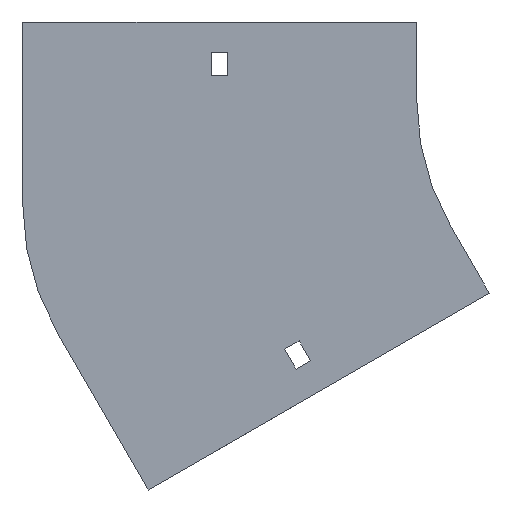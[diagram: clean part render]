
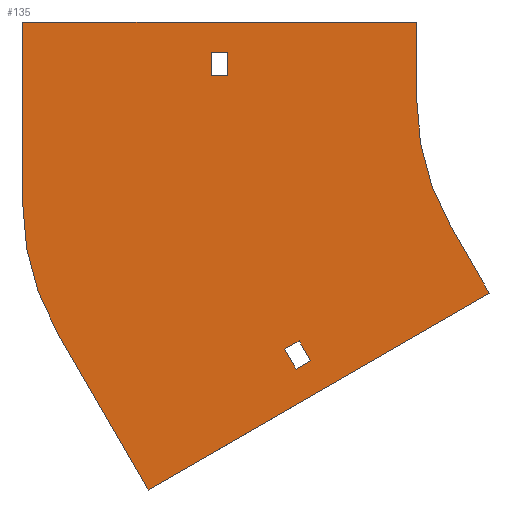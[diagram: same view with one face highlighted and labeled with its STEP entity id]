
A CAD part, front view. The second image highlights one B-rep face of the part: STEP entity #135.
In plain terms, the highlighted planar face has unit normal (0, -1, 0).
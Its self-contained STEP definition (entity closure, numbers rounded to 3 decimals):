
#14 = CARTESIAN_POINT ( 'NONE',  ( 0., 0., 0. ) ) ;
#15 = CARTESIAN_POINT ( 'NONE',  ( -147.101, 0., -105.713 ) ) ;
#16 = CARTESIAN_POINT ( 'NONE',  ( -180.25, 0., 9. ) ) ;
#29 = FACE_BOUND ( 'NONE', #1389, .T. ) ;
#39 = CIRCLE ( 'NONE', #934, 100. ) ;
#42 = VERTEX_POINT ( 'NONE', #532 ) ;
#46 = LINE ( 'NONE', #176, #450 ) ;
#55 = CARTESIAN_POINT ( 'NONE',  ( -100., 0., 0. ) ) ;
#56 = VERTEX_POINT ( 'NONE', #441 ) ;
#62 = EDGE_CURVE ( 'NONE', #1405, #285, #1062, .T. ) ;
#79 = LINE ( 'NONE', #607, #559 ) ;
#82 = DIRECTION ( 'NONE',  ( 0., 0., -1. ) ) ;
#93 = EDGE_CURVE ( 'NONE', #678, #1405, #951, .T. ) ;
#100 = ORIENTED_EDGE ( 'NONE', *, *, #377, .F. ) ;
#112 = EDGE_CURVE ( 'NONE', #273, #1020, #424, .T. ) ;
#121 = CARTESIAN_POINT ( 'NONE',  ( -254., 0., -41.264 ) ) ;
#135 = ADVANCED_FACE ( 'NONE', ( #29, #1320, #561 ), #258, .T. ) ;
#148 = ORIENTED_EDGE ( 'NONE', *, *, #316, .T. ) ;
#154 = EDGE_CURVE ( 'NONE', #861, #161, #654, .T. ) ;
#161 = VERTEX_POINT ( 'NONE', #1094 ) ;
#176 = CARTESIAN_POINT ( 'NONE',  ( -180.25, 0., 9. ) ) ;
#177 = VECTOR ( 'NONE', #734, 1000. ) ;
#190 = CARTESIAN_POINT ( 'NONE',  ( -254., 0., 30. ) ) ;
#214 = VERTEX_POINT ( 'NONE', #1305 ) ;
#218 = VERTEX_POINT ( 'NONE', #988 ) ;
#219 = CARTESIAN_POINT ( 'NONE',  ( -154., 0., -41.264 ) ) ;
#220 = ORIENTED_EDGE ( 'NONE', *, *, #449, .F. ) ;
#232 = DIRECTION ( 'NONE',  ( 0.866, 0., 0.5 ) ) ;
#242 = DIRECTION ( 'NONE',  ( 0., -1., 0. ) ) ;
#258 = PLANE ( 'NONE',  #1125 ) ;
#273 = VERTEX_POINT ( 'NONE', #792 ) ;
#285 = VERTEX_POINT ( 'NONE', #581 ) ;
#295 = DIRECTION ( 'NONE',  ( -0.5, 0., 0.866 ) ) ;
#313 = ORIENTED_EDGE ( 'NONE', *, *, #456, .F. ) ;
#315 = LINE ( 'NONE', #506, #340 ) ;
#316 = EDGE_CURVE ( 'NONE', #42, #214, #46, .T. ) ;
#340 = VECTOR ( 'NONE', #742, 1000. ) ;
#377 = EDGE_CURVE ( 'NONE', #1068, #443, #502, .T. ) ;
#399 = DIRECTION ( 'NONE',  ( 0.5, 0., -0.866 ) ) ;
#415 = DIRECTION ( 'NONE',  ( -0.866, 0., -0.5 ) ) ;
#424 = LINE ( 'NONE', #630, #1139 ) ;
#441 = CARTESIAN_POINT ( 'NONE',  ( -173.75, 0., 18. ) ) ;
#442 = LINE ( 'NONE', #15, #756 ) ;
#443 = VERTEX_POINT ( 'NONE', #1268 ) ;
#449 = EDGE_CURVE ( 'NONE', #285, #218, #516, .T. ) ;
#450 = VECTOR ( 'NONE', #1128, 1000. ) ;
#456 = EDGE_CURVE ( 'NONE', #1152, #1068, #39, .T. ) ;
#458 = ORIENTED_EDGE ( 'NONE', *, *, #811, .T. ) ;
#469 = VECTOR ( 'NONE', #399, 1000. ) ;
#486 = ORIENTED_EDGE ( 'NONE', *, *, #945, .F. ) ;
#488 = CARTESIAN_POINT ( 'NONE',  ( -141.472, 0., -102.463 ) ) ;
#499 = EDGE_LOOP ( 'NONE', ( #1025, #818, #486, #1073, #730, #100, #313, #1142 ) ) ;
#502 = LINE ( 'NONE', #1292, #469 ) ;
#506 = CARTESIAN_POINT ( 'NONE',  ( -180.25, 0., 18. ) ) ;
#516 = LINE ( 'NONE', #1406, #177 ) ;
#525 = CARTESIAN_POINT ( 'NONE',  ( -151.601, 0., -97.919 ) ) ;
#531 = DIRECTION ( 'NONE',  ( 0., -1., 0. ) ) ;
#532 = CARTESIAN_POINT ( 'NONE',  ( -180.25, 0., 9. ) ) ;
#546 = DIRECTION ( 'NONE',  ( -1., 0., 0. ) ) ;
#556 = VECTOR ( 'NONE', #766, 1000. ) ;
#559 = VECTOR ( 'NONE', #837, 1000. ) ;
#561 = FACE_BOUND ( 'NONE', #1285, .T. ) ;
#581 = CARTESIAN_POINT ( 'NONE',  ( -151.601, 0., -97.919 ) ) ;
#592 = VERTEX_POINT ( 'NONE', #864 ) ;
#606 = DIRECTION ( 'NONE',  ( 1., 0., 0. ) ) ;
#607 = CARTESIAN_POINT ( 'NONE',  ( -173.75, 0., 9. ) ) ;
#619 = ORIENTED_EDGE ( 'NONE', *, *, #1382, .F. ) ;
#630 = CARTESIAN_POINT ( 'NONE',  ( -204.97, 0., -152.981 ) ) ;
#633 = LINE ( 'NONE', #1278, #1149 ) ;
#646 = DIRECTION ( 'NONE',  ( -0.5, 0., 0.866 ) ) ;
#648 = AXIS2_PLACEMENT_3D ( 'NONE', #219, #754, #1187 ) ;
#654 = LINE ( 'NONE', #121, #556 ) ;
#678 = VERTEX_POINT ( 'NONE', #488 ) ;
#693 = VECTOR ( 'NONE', #546, 1000. ) ;
#698 = CARTESIAN_POINT ( 'NONE',  ( -86.603, 0., -50. ) ) ;
#716 = VECTOR ( 'NONE', #606, 1000. ) ;
#720 = DIRECTION ( 'NONE',  ( -0.866, 0., -0.5 ) ) ;
#722 = ORIENTED_EDGE ( 'NONE', *, *, #939, .T. ) ;
#730 = ORIENTED_EDGE ( 'NONE', *, *, #887, .F. ) ;
#734 = DIRECTION ( 'NONE',  ( 0.5, 0., -0.866 ) ) ;
#742 = DIRECTION ( 'NONE',  ( 1., 0., 0. ) ) ;
#754 = DIRECTION ( 'NONE',  ( 0., 1., 0. ) ) ;
#756 = VECTOR ( 'NONE', #232, 1000. ) ;
#760 = CARTESIAN_POINT ( 'NONE',  ( -145.972, 0., -94.669 ) ) ;
#764 = LINE ( 'NONE', #16, #693 ) ;
#766 = DIRECTION ( 'NONE',  ( 0., 0., 1. ) ) ;
#771 = DIRECTION ( 'NONE',  ( 0., 0., -1. ) ) ;
#777 = EDGE_CURVE ( 'NONE', #56, #1396, #79, .T. ) ;
#792 = CARTESIAN_POINT ( 'NONE',  ( -204.97, 0., -152.981 ) ) ;
#811 = EDGE_CURVE ( 'NONE', #214, #56, #315, .T. ) ;
#818 = ORIENTED_EDGE ( 'NONE', *, *, #154, .F. ) ;
#837 = DIRECTION ( 'NONE',  ( 0., 0., -1. ) ) ;
#861 = VERTEX_POINT ( 'NONE', #1281 ) ;
#864 = CARTESIAN_POINT ( 'NONE',  ( -100., 0., 30. ) ) ;
#887 = EDGE_CURVE ( 'NONE', #443, #273, #1150, .T. ) ;
#907 = ORIENTED_EDGE ( 'NONE', *, *, #62, .F. ) ;
#934 = AXIS2_PLACEMENT_3D ( 'NONE', #942, #531, #82 ) ;
#939 = EDGE_CURVE ( 'NONE', #1396, #42, #764, .T. ) ;
#942 = CARTESIAN_POINT ( 'NONE',  ( 0., 0., 0. ) ) ;
#945 = EDGE_CURVE ( 'NONE', #1020, #861, #1219, .T. ) ;
#951 = LINE ( 'NONE', #1054, #1306 ) ;
#988 = CARTESIAN_POINT ( 'NONE',  ( -147.101, 0., -105.713 ) ) ;
#1020 = VERTEX_POINT ( 'NONE', #1309 ) ;
#1025 = ORIENTED_EDGE ( 'NONE', *, *, #1203, .F. ) ;
#1054 = CARTESIAN_POINT ( 'NONE',  ( -145.972, 0., -94.669 ) ) ;
#1062 = LINE ( 'NONE', #525, #1313 ) ;
#1065 = ORIENTED_EDGE ( 'NONE', *, *, #93, .F. ) ;
#1067 = CARTESIAN_POINT ( 'NONE',  ( -71.603, 0., -75.981 ) ) ;
#1068 = VERTEX_POINT ( 'NONE', #698 ) ;
#1073 = ORIENTED_EDGE ( 'NONE', *, *, #112, .F. ) ;
#1094 = CARTESIAN_POINT ( 'NONE',  ( -254., 0., 30. ) ) ;
#1125 = AXIS2_PLACEMENT_3D ( 'NONE', #14, #242, #771 ) ;
#1128 = DIRECTION ( 'NONE',  ( 0., 0., 1. ) ) ;
#1139 = VECTOR ( 'NONE', #295, 1000. ) ;
#1142 = ORIENTED_EDGE ( 'NONE', *, *, #1222, .F. ) ;
#1149 = VECTOR ( 'NONE', #1255, 1000. ) ;
#1150 = LINE ( 'NONE', #1067, #1264 ) ;
#1152 = VERTEX_POINT ( 'NONE', #55 ) ;
#1187 = DIRECTION ( 'NONE',  ( 0., 0., 1. ) ) ;
#1203 = EDGE_CURVE ( 'NONE', #161, #592, #1374, .T. ) ;
#1219 = CIRCLE ( 'NONE', #648, 100. ) ;
#1222 = EDGE_CURVE ( 'NONE', #592, #1152, #633, .T. ) ;
#1255 = DIRECTION ( 'NONE',  ( 0., 0., -1. ) ) ;
#1264 = VECTOR ( 'NONE', #720, 1000. ) ;
#1268 = CARTESIAN_POINT ( 'NONE',  ( -71.603, 0., -75.981 ) ) ;
#1278 = CARTESIAN_POINT ( 'NONE',  ( -100., 0., 30. ) ) ;
#1281 = CARTESIAN_POINT ( 'NONE',  ( -254., 0., -41.264 ) ) ;
#1285 = EDGE_LOOP ( 'NONE', ( #619, #220, #907, #1065 ) ) ;
#1292 = CARTESIAN_POINT ( 'NONE',  ( -86.603, 0., -50. ) ) ;
#1295 = CARTESIAN_POINT ( 'NONE',  ( -173.75, 0., 9. ) ) ;
#1305 = CARTESIAN_POINT ( 'NONE',  ( -180.25, 0., 18. ) ) ;
#1306 = VECTOR ( 'NONE', #646, 1000. ) ;
#1309 = CARTESIAN_POINT ( 'NONE',  ( -240.603, 0., -91.264 ) ) ;
#1313 = VECTOR ( 'NONE', #415, 1000. ) ;
#1320 = FACE_OUTER_BOUND ( 'NONE', #499, .T. ) ;
#1351 = ORIENTED_EDGE ( 'NONE', *, *, #777, .T. ) ;
#1374 = LINE ( 'NONE', #190, #716 ) ;
#1382 = EDGE_CURVE ( 'NONE', #218, #678, #442, .T. ) ;
#1389 = EDGE_LOOP ( 'NONE', ( #148, #458, #1351, #722 ) ) ;
#1396 = VERTEX_POINT ( 'NONE', #1295 ) ;
#1405 = VERTEX_POINT ( 'NONE', #760 ) ;
#1406 = CARTESIAN_POINT ( 'NONE',  ( -151.601, 0., -97.919 ) ) ;
